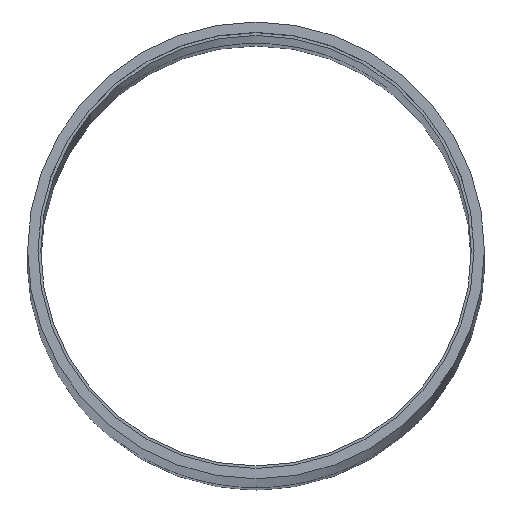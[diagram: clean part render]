
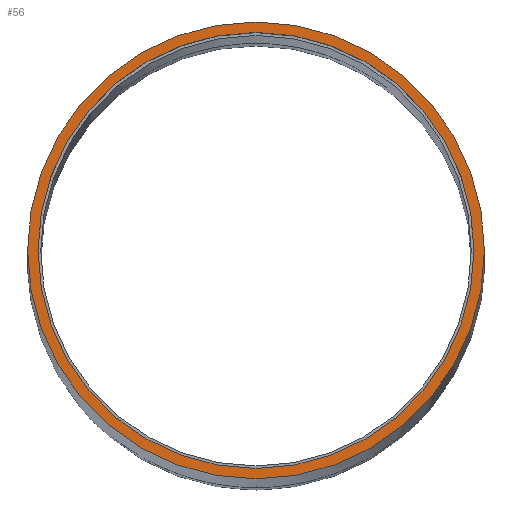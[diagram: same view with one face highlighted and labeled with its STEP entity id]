
A CAD part, top view. The second image highlights one B-rep face of the part: STEP entity #56.
In plain terms, the highlighted planar face has unit normal (0, 0, 1).
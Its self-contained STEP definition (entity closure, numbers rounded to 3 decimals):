
#51=PLANE('',#2226);
#56=ADVANCED_FACE('',(#270,#160),#51,.T.);
#160=FACE_OUTER_BOUND('',#304,.F.);
#270=FACE_BOUND('',#303,.F.);
#303=EDGE_LOOP('',(#473,#474));
#304=EDGE_LOOP('',(#475,#476));
#473=ORIENTED_EDGE('',*,*,#1596,.T.);
#474=ORIENTED_EDGE('',*,*,#1595,.T.);
#475=ORIENTED_EDGE('',*,*,#1623,.F.);
#476=ORIENTED_EDGE('',*,*,#1619,.F.);
#1169=CIRCLE('',#2143,34.85);
#1170=CIRCLE('',#2144,34.85);
#1171=CIRCLE('',#2145,36.513);
#1173=CIRCLE('',#2147,36.513);
#1595=EDGE_CURVE('',#2026,#2025,#1169,.T.);
#1596=EDGE_CURVE('',#2025,#2026,#1170,.T.);
#1619=EDGE_CURVE('',#2108,#2078,#1171,.T.);
#1623=EDGE_CURVE('',#2078,#2108,#1173,.T.);
#2025=VERTEX_POINT('',#2933);
#2026=VERTEX_POINT('',#2934);
#2078=VERTEX_POINT('',#2986);
#2108=VERTEX_POINT('',#3016);
#2143=AXIS2_PLACEMENT_3D('',#4295,#2350,#2351);
#2144=AXIS2_PLACEMENT_3D('',#4296,#2352,#2353);
#2145=AXIS2_PLACEMENT_3D('',#4539,#2356,#2357);
#2147=AXIS2_PLACEMENT_3D('',#4543,#2362,#2363);
#2226=AXIS2_PLACEMENT_3D('',#4728,#2626,#2627);
#2350=DIRECTION('',(0.,0.,1.));
#2351=DIRECTION('',(0.,-1.,0.));
#2352=DIRECTION('',(0.,0.,1.));
#2353=DIRECTION('',(0.,1.,0.));
#2356=DIRECTION('',(0.,0.,1.));
#2357=DIRECTION('',(0.,1.,0.));
#2362=DIRECTION('',(0.,0.,1.));
#2363=DIRECTION('',(0.,-1.,0.));
#2626=DIRECTION('',(0.,0.,1.));
#2627=DIRECTION('',(1.,0.,0.));
#2933=CARTESIAN_POINT('',(284.375,454.102,390.164));
#2934=CARTESIAN_POINT('',(284.375,384.402,390.164));
#2986=CARTESIAN_POINT('',(284.375,382.74,390.164));
#3016=CARTESIAN_POINT('',(284.375,455.765,390.164));
#4295=CARTESIAN_POINT('',(284.375,419.252,390.164));
#4296=CARTESIAN_POINT('',(284.375,419.252,390.164));
#4539=CARTESIAN_POINT('',(284.375,419.252,390.164));
#4543=CARTESIAN_POINT('',(284.375,419.252,390.164));
#4728=CARTESIAN_POINT('',(247.132,382.01,390.164));
